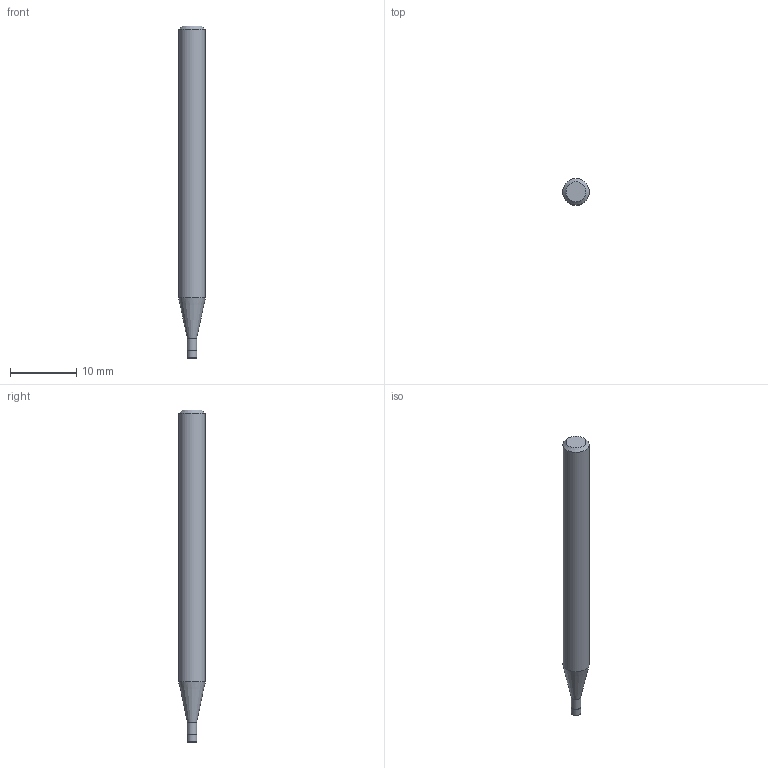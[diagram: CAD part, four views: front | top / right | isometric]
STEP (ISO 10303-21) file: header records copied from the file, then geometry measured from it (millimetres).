
FILE_DESCRIPTION((''),'2;1');
FILE_NAME('C:\Users\nsx150\AppData\Local\Temp\Mastercam 2021\3SYKECWX22\TEMP.step','2021-04-22T09:47:56',(''),(''),'STEP Write','Mastercam 2021 ... CNC Software, Inc.','');
FILE_SCHEMA(('AUTOMOTIVE_DESIGN'));
Length unit declared in the file: millimetre
Products named in the file (1): None
Bounding box: 4 x 4 x 50 mm (x, y, z)
Volume: 555.8 mm3; surface area: 594.7 mm2
Topology: 2 solids, 2 shells, 10 faces, 14 edges, 8 vertices
Faces by surface type: plane 4, cylinder 3, cone 2, torus 1
Full cylindrical faces by diameter (mm): 1.43 x1, 1.5 x1, 4 x1
Entity records: 232 total; most frequent: DIRECTION 40, CARTESIAN_POINT 28, AXIS2_PLACEMENT_3D 20, ORIENTED_EDGE 16, EDGE_LOOP 16, STYLED_ITEM 13, ADVANCED_FACE 10, FACE_BOUND 10
